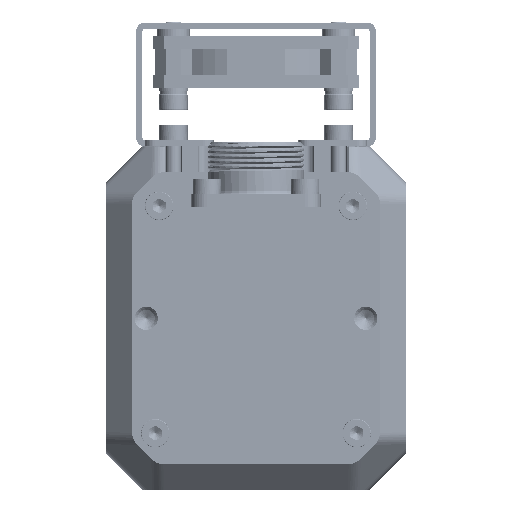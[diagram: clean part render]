
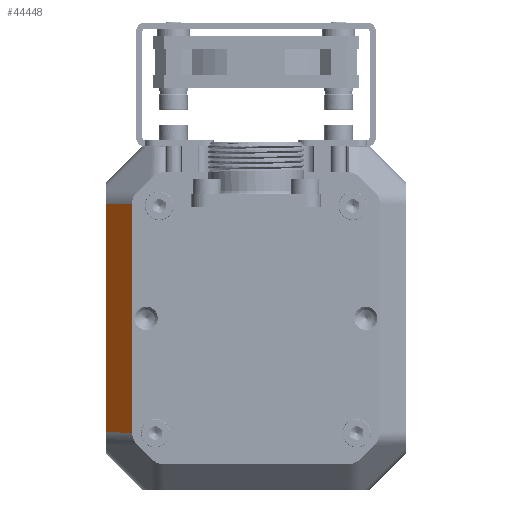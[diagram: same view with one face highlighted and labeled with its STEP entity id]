
A CAD part, front view. The second image highlights one B-rep face of the part: STEP entity #44448.
In plain terms, the highlighted planar face has unit normal (-0.707, -0.707, 0) as drawn and (0.707, 0, 0.707) by its records, which use the part's own axes.
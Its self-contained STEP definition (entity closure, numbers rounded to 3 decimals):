
#38264=DIRECTION('',(0.,1.,0.));
#38265=VECTOR('',#38264,44.094);
#38266=CARTESIAN_POINT('',(29.,-55.297,-5.));
#38267=LINE('',#38266,#38265);
#39113=CARTESIAN_POINT('',(29.,-55.297,-5.));
#39123=DIRECTION('',(-0.707,-0.02,0.707));
#39124=VECTOR('',#39123,7.072);
#39125=CARTESIAN_POINT('',(29.,-55.297,-5.));
#39126=LINE('',#39125,#39124);
#39130=DIRECTION('',(0.,1.,0.));
#39131=VECTOR('',#39130,44.371);
#39132=CARTESIAN_POINT('',(24.,-55.435,0.));
#39133=LINE('',#39132,#39131);
#39137=DIRECTION('',(0.707,-0.02,-0.707));
#39138=VECTOR('',#39137,7.072);
#39139=CARTESIAN_POINT('',(24.,-11.065,0.));
#39140=LINE('',#39139,#39138);
#39144=CARTESIAN_POINT('',(24.,-11.065,0.));
#40751=VERTEX_POINT('',#39144);
#40752=CARTESIAN_POINT('',(24.,-55.435,0.));
#40753=VERTEX_POINT('',#40752);
#41418=VERTEX_POINT('',#39113);
#41419=CARTESIAN_POINT('',(29.,-11.203,-5.));
#41420=VERTEX_POINT('',#41419);
#44436=CARTESIAN_POINT('',(26.5,-33.25,-2.5));
#44437=DIRECTION('',(0.707,0.,0.707));
#44438=DIRECTION('',(0.707,0.,-0.707));
#44439=AXIS2_PLACEMENT_3D('',#44436,#44437,#44438);
#44440=PLANE('',#44439);
#44441=ORIENTED_EDGE('',*,*,#43618,.F.);
#44442=ORIENTED_EDGE('',*,*,#44429,.T.);
#44443=ORIENTED_EDGE('',*,*,#41694,.T.);
#44445=ORIENTED_EDGE('',*,*,#44444,.T.);
#44446=EDGE_LOOP('',(#44441,#44442,#44443,#44445));
#44447=FACE_OUTER_BOUND('',#44446,.F.);
#41694=EDGE_CURVE('',#40753,#40751,#39133,.T.);
#43618=EDGE_CURVE('',#41418,#41420,#38267,.T.);
#44429=EDGE_CURVE('',#41418,#40753,#39126,.T.);
#44444=EDGE_CURVE('',#40751,#41420,#39140,.T.);
#44448=ADVANCED_FACE('',(#44447),#44440,.T.);
